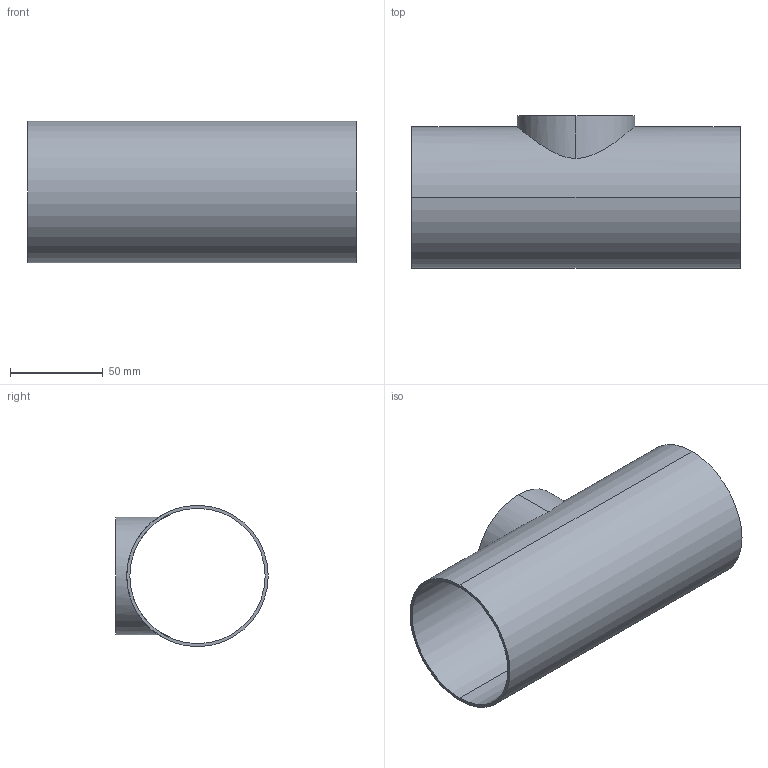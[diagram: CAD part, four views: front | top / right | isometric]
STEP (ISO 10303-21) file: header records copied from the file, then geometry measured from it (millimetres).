
FILE_DESCRIPTION (( 'STEP AP214' ), '1' );
FILE_NAME ('TEG7RS6L3.0x2.5-...STEP', '2016-05-24T10:55:24', ( 'eran' ), ( '' ), 'SwSTEP 2.0', 'SolidWorks 2016', '' );
FILE_SCHEMA (( 'AUTOMOTIVE_DESIGN' ));
Length unit declared in the file: millimetre
Products named in the file (1): TEG7RS6L3.0x2.5-..
Bounding box: 176.8 x 82.1 x 76.2 mm (x, y, z)
Volume: 67360.9 mm3; surface area: 82735.4 mm2
Topology: 1 solids, 1 shells, 11 faces, 24 edges, 16 vertices
Faces by surface type: cylinder 8, plane 3
Entity records: 612 total; most frequent: CARTESIAN_POINT 320, DIRECTION 56, ORIENTED_EDGE 48, AXIS2_PLACEMENT_3D 24, EDGE_CURVE 24, VERTEX_POINT 16, EDGE_LOOP 16, CIRCLE 12
